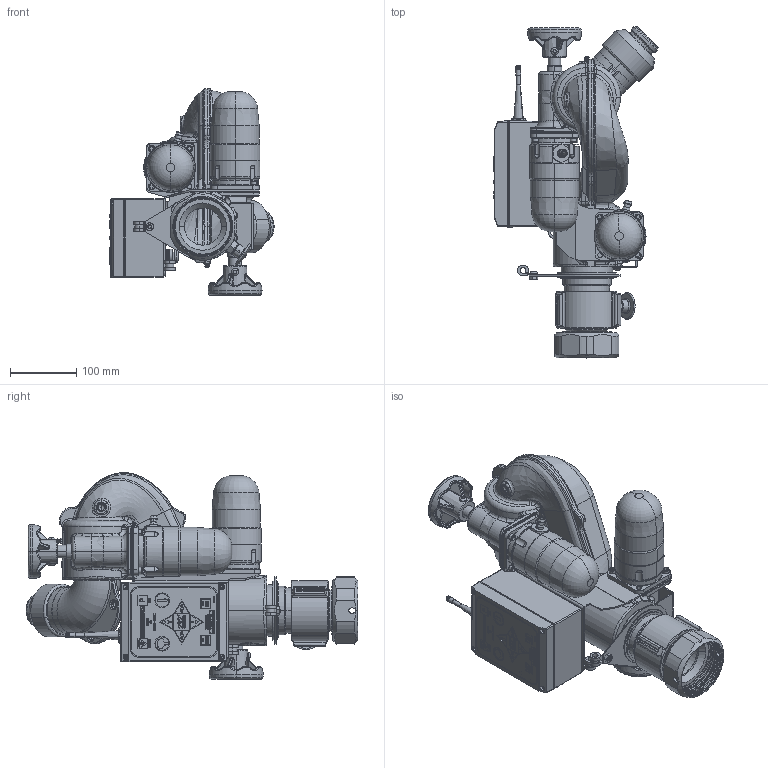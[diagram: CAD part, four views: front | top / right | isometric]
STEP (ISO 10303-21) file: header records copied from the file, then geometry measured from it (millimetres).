
FILE_DESCRIPTION (( 'STEP AP203' ), '1' );
FILE_NAME ('Y2-EL4A_45_Up.STEP', '2014-07-03T15:51:24', ( '' ), ( '' ), 'SwSTEP 2.0', 'SolidWorks 2014', '' );
FILE_SCHEMA (( 'CONFIG_CONTROL_DESIGN' ));
Products named in the file (1): Y2-EL4A_45_Up
Bounding box: 247.17 x 500.14 x 311.3 mm (x, y, z)
Surface area: 636434.3 mm2 (no closed solid volume)
Topology: 0 solids, 200 shells, 2195 faces, 9823 edges, 7688 vertices
Faces by surface type: plane 681, cylinder 601, bspline 408, torus 260, cone 223, sphere 22
Entity records: 179583 total; most frequent: CARTESIAN_POINT 107447, ORIENTED_EDGE 13993, DIRECTION 12833, EDGE_CURVE 9821, VERTEX_POINT 7687, VECTOR 4563, LINE 4563, AXIS2_PLACEMENT_3D 4135
